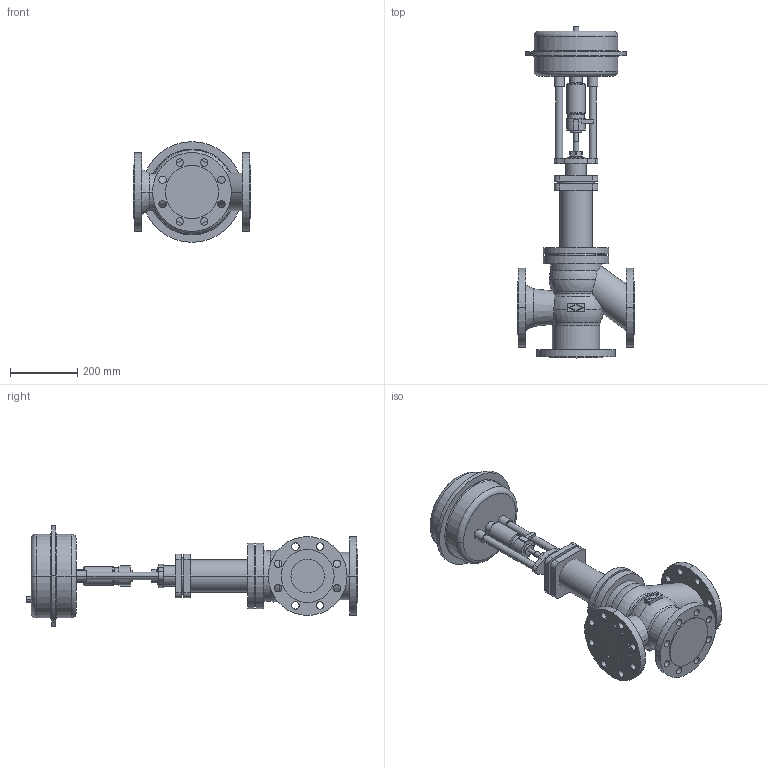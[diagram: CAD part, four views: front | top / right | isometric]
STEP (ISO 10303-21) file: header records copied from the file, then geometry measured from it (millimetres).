
FILE_DESCRIPTION(('OneSpaceDesigner STEP Export'),'2;1');
FILE_NAME('c000000735.stp','2006-09-21T 8:38:52',(''),(''),'OneSpace Designer STEP processor for AP214 (Solid Model)','OneSpace Designer 13.20A 18-Aug-2005 (C) CoCreate Software GmbH','');
FILE_SCHEMA(('AUTOMOTIVE_DESIGN { 1 0 10303 214 1 1 1 1 }'));
Length unit declared in the file: millimetre
Products named in the file (2): 1; 2
Bounding box: 350 x 989.3 x 300 mm (x, y, z)
Volume: 19899214.9 mm3; surface area: 995729.8 mm2
Topology: 2 solids, 2 shells, 265 faces, 660 edges, 429 vertices
Faces by surface type: cylinder 134, plane 93, torus 26, cone 8, sphere 4
Entity records: 7163 total; most frequent: CARTESIAN_POINT 1358, ORIENTED_EDGE 1312, DIRECTION 1052, EDGE_CURVE 656, VERTEX_POINT 429, AXIS2_PLACEMENT_3D 387, EDGE_LOOP 347, VECTOR 278
